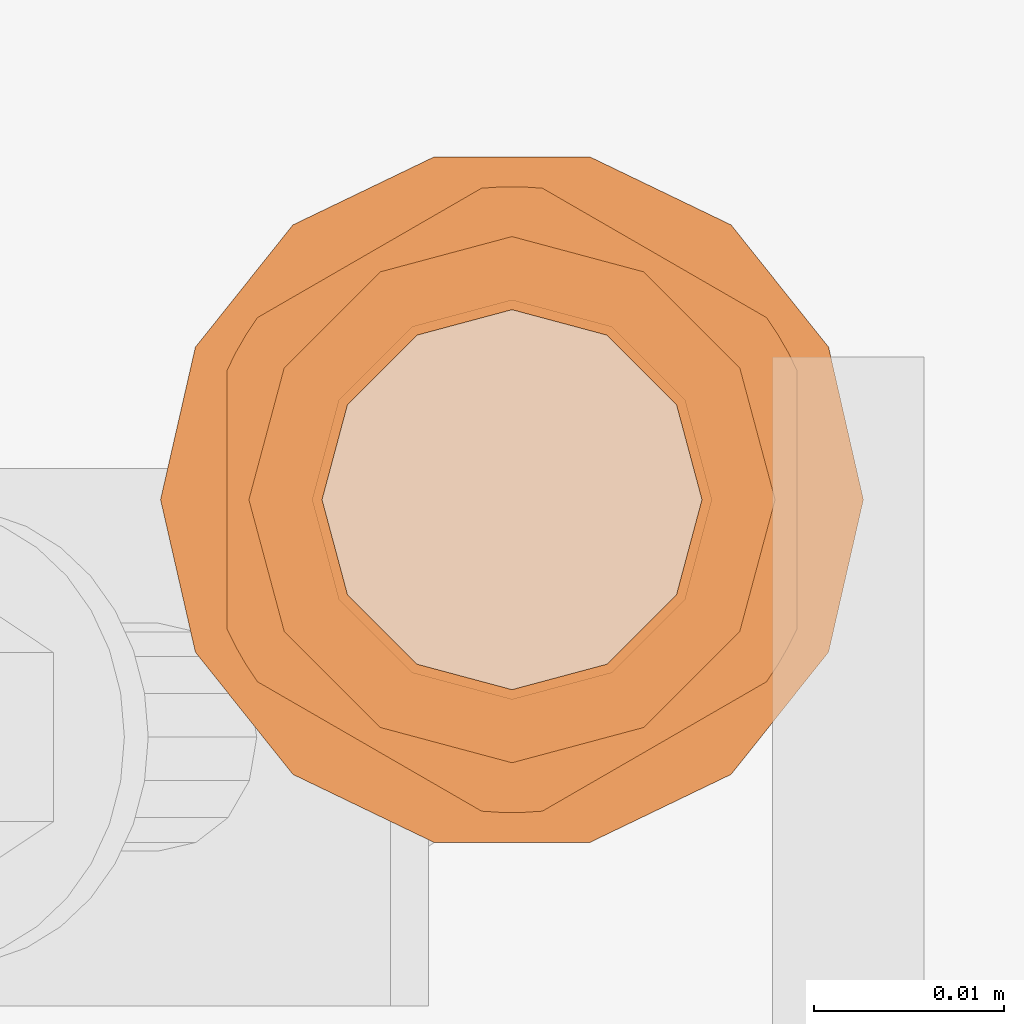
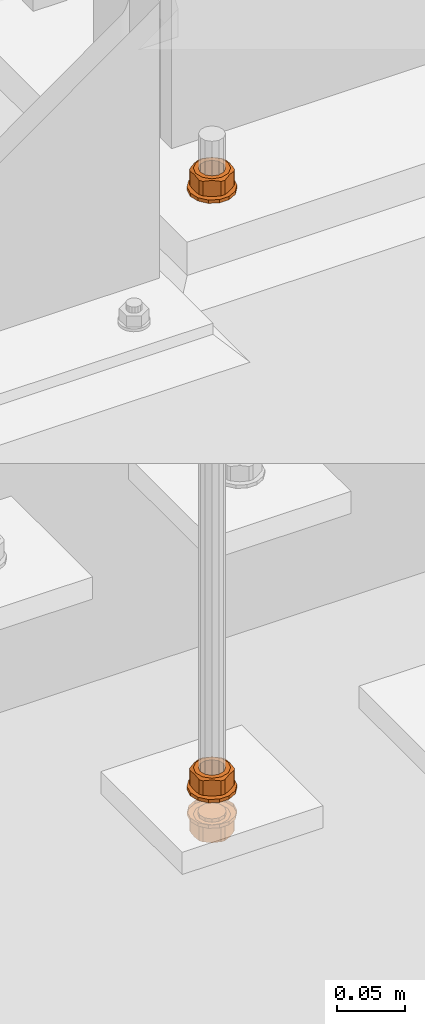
# One storey, part 137 of 145: 6 proxies.
"""IFC2X3 building model written with IfcOpenShell, lengths in millimetres."""

from ifc_helpers import new_model, entity, si_unit, converted_unit, origin_with_axes, place, context, project, spatial, faceted_brep, material, element, save


model = new_model("IFC2X3")

# Units and contexts
model_context = context("Model", 3, precision=1e-09, world=origin_with_axes())
ifc_project = project(units=[si_unit("LENGTHUNIT", "METRE", prefix="MILLI"), si_unit("AREAUNIT", "SQUARE_METRE"), si_unit("VOLUMEUNIT", "CUBIC_METRE"), converted_unit("PLANEANGLEUNIT", "DEGREE", entity("IfcPlaneAngleMeasure", 0.01745329), si_unit("PLANEANGLEUNIT", "RADIAN"), dimensions=[0, 0, 0, 0, 0, 0, 0])], contexts=[model_context])

# Site, building, storey
site_placement = place(None, origin_with_axes())
site = spatial("IfcSite", under=ifc_project, at=site_placement, Name="BZ1 Grund- und Mittelschule 85716 Unterschlei?heim", CompositionType="ELEMENT")
building_placement = place(site_placement, origin_with_axes())
building = spatial("IfcBuilding", under=site, at=building_placement, Name="Struktur 1", CompositionType="ELEMENT")
storey_placement = place(building_placement, origin_with_axes())
storey = spatial("IfcBuildingStorey", under=building, at=storey_placement, Name="Default Storey", CompositionType="ELEMENT", Elevation=0.0)

# Proxies
ifc_material = material(Name="A2")
proxy_1_placement = place(None, origin_with_axes())
element("IfcBuildingElementProxy", 1, at=proxy_1_placement, inside=storey, material=ifc_material, ObjectType="-", context=model_context, shape_type="Brep", body=[
    faceted_brep([(16972.379288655, -1850.538117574, -1247.0), (16964.961364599, -1846.965833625, -1247.0), (16956.728090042, -1846.965833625, -1247.0), (16949.310165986, -1850.538117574, -1247.0), (16944.176803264, -1856.975150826, -1247.0), (16942.344727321, -1865.002, -1247.0), (16944.176803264, -1873.028849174, -1247.0), (16949.310165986, -1879.465882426, -1247.0), (16956.728090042, -1883.038166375, -1247.0), (16964.961364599, -1883.038166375, -1247.0), (16972.379288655, -1879.465882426, -1247.0), (16977.512651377, -1873.028849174, -1247.0), (16979.344727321, -1865.002, -1247.0), (16977.512651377, -1856.975150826, -1247.0), (16960.844727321, -1854.502, -1247.0), (16966.094727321, -1855.90873326, -1247.0), (16969.93799406, -1859.752, -1247.0), (16971.344727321, -1865.002, -1247.0), (16969.93799406, -1870.252, -1247.0), (16966.094727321, -1874.09526674, -1247.0), (16960.844727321, -1875.502, -1247.0), (16955.594727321, -1874.09526674, -1247.0), (16951.751460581, -1870.252, -1247.0), (16950.344727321, -1865.002, -1247.0), (16951.751460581, -1859.752, -1247.0), (16955.594727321, -1855.90873326, -1247.0), (16949.310165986, -1850.538117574, -1250.0), (16956.728090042, -1846.965833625, -1250.0), (16964.961364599, -1846.965833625, -1250.0), (16972.379288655, -1850.538117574, -1250.0), (16977.512651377, -1856.975150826, -1250.0), (16979.344727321, -1865.002, -1250.0), (16977.512651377, -1873.028849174, -1250.0), (16972.379288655, -1879.465882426, -1250.0), (16964.961364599, -1883.038166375, -1250.0), (16956.728090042, -1883.038166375, -1250.0), (16949.310165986, -1879.465882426, -1250.0), (16944.176803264, -1873.028849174, -1250.0), (16942.344727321, -1865.002, -1250.0), (16944.176803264, -1856.975150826, -1250.0), (16960.844727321, -1854.502, -1250.0), (16955.594727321, -1855.90873326, -1250.0), (16951.751460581, -1859.752, -1250.0), (16950.344727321, -1865.002, -1250.0), (16951.751460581, -1870.252, -1250.0), (16955.594727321, -1874.09526674, -1250.0), (16960.844727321, -1875.502, -1250.0), (16966.094727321, -1874.09526674, -1250.0), (16969.93799406, -1870.252, -1250.0), (16971.344727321, -1865.002, -1250.0), (16969.93799406, -1859.752, -1250.0), (16966.094727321, -1855.90873326, -1250.0)], [[[0, 1, 2, 3, 4, 5, 6, 7, 8, 9, 10, 11, 12, 13], [14, 15, 16, 17, 18, 19, 20, 21, 22, 23, 24, 25]], [[26, 3, 2, 27]], [[26, 27, 28, 29, 30, 31, 32, 33, 34, 35, 36, 37, 38, 39], [40, 41, 42, 43, 44, 45, 46, 47, 48, 49, 50, 51]], [[3, 26, 39, 4]], [[41, 25, 24, 42]], [[4, 39, 38, 5]], [[25, 41, 40, 14]], [[27, 2, 1, 28]], [[42, 24, 23, 43]], [[5, 38, 37, 6]], [[14, 40, 51, 15]], [[28, 1, 0, 29]], [[43, 23, 22, 44]], [[6, 37, 36, 7]], [[15, 51, 50, 16]], [[29, 0, 13, 30]], [[44, 22, 21, 45]], [[7, 36, 35, 8]], [[16, 50, 49, 17]], [[12, 31, 30, 13]], [[45, 21, 20, 46]], [[8, 35, 34, 9]], [[31, 12, 11, 32]], [[17, 49, 48, 18]], [[10, 33, 32, 11]], [[9, 34, 33, 10]], [[46, 20, 19, 47]], [[18, 48, 47, 19]]]),
])
proxy_2_placement = place(None, origin_with_axes())
element("IfcBuildingElementProxy", 2, at=proxy_2_placement, inside=storey, material=ifc_material, ObjectType="-", context=model_context, shape_type="Brep", body=[
    faceted_brep([(16975.371914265, -1872.772872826, -1245.484455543), (16974.838094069, -1873.697476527, -1245.484455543), (16972.839179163, -1871.927, -1247.0), (16975.371914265, -1872.772872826, -1232.515544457), (16974.838094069, -1873.697476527, -1232.515544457), (16974.245508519, -1874.585563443, -1245.484455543), (16974.245508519, -1874.585563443, -1232.515544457), (16975.844727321, -1871.815635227, -1245.484455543), (16975.844727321, -1871.815635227, -1232.515544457), (16972.839179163, -1871.927, -1231.0), (16975.844727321, -1865.002, -1246.33604719), (16974.694727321, -1865.002, -1247.0), (16968.344727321, -1877.992381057, -1246.33604719), (16968.344727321, -1877.992381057, -1231.66395281), (16962.443946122, -1881.39919867, -1232.515544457), (16962.443946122, -1881.39919867, -1245.484455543), (16961.378547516, -1881.468349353, -1245.484455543), (16961.378547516, -1881.468349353, -1232.515544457), (16960.310907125, -1881.468349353, -1232.515544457), (16960.310907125, -1881.468349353, -1245.484455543), (16975.844727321, -1858.188364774, -1245.484455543), (16975.844727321, -1858.188364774, -1232.515544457), (16975.844727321, -1865.002, -1231.66395281), (16967.769727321, -1853.007548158, -1247.0), (16972.839179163, -1858.077, -1247.0), (16967.769727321, -1876.996451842, -1247.0), (16960.844727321, -1878.852, -1247.0), (16953.919727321, -1876.996451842, -1247.0), (16948.850275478, -1871.927, -1247.0), (16946.994727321, -1865.002, -1247.0), (16948.850275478, -1858.077, -1247.0), (16953.919727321, -1853.007548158, -1247.0), (16960.844727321, -1851.152, -1247.0), (16970.844727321, -1865.002, -1247.0), (16969.504981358, -1860.002, -1247.0), (16965.844727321, -1856.341745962, -1247.0), (16960.844727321, -1855.002, -1247.0), (16955.844727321, -1856.341745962, -1247.0), (16952.184473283, -1860.002, -1247.0), (16950.844727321, -1865.002, -1247.0), (16952.184473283, -1870.002, -1247.0), (16955.844727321, -1873.662254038, -1247.0), (16960.844727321, -1875.002, -1247.0), (16965.844727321, -1873.662254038, -1247.0), (16969.504981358, -1870.002, -1247.0), (16969.504981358, -1870.002, -1231.0), (16965.844727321, -1873.662254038, -1231.0), (16967.769727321, -1876.996451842, -1231.0), (16960.844727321, -1878.852, -1231.0), (16975.371914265, -1857.231127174, -1245.484455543), (16975.371914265, -1857.231127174, -1232.515544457), (16974.694727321, -1865.002, -1231.0), (16972.839179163, -1858.077, -1231.0), (16967.769727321, -1853.007548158, -1231.0), (16960.844727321, -1851.152, -1231.0), (16953.919727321, -1853.007548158, -1231.0), (16948.850275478, -1858.077, -1231.0), (16946.994727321, -1865.002, -1231.0), (16948.850275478, -1871.927, -1231.0), (16953.919727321, -1876.996451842, -1231.0), (16970.844727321, -1865.002, -1231.0), (16960.844727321, -1875.002, -1231.0), (16955.844727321, -1873.662254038, -1231.0), (16952.184473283, -1870.002, -1231.0), (16950.844727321, -1865.002, -1231.0), (16952.184473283, -1860.002, -1231.0), (16955.844727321, -1856.341745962, -1231.0), (16960.844727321, -1855.002, -1231.0), (16965.844727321, -1856.341745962, -1231.0), (16969.504981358, -1860.002, -1231.0), (16959.245508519, -1881.39919867, -1245.484455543), (16959.245508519, -1881.39919867, -1232.515544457), (16974.838094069, -1856.306523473, -1245.484455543), (16974.838094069, -1856.306523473, -1232.515544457), (16953.344727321, -1877.992381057, -1246.33604719), (16953.344727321, -1877.992381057, -1231.66395281), (16947.443946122, -1874.585563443, -1232.515544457), (16947.443946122, -1874.585563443, -1245.484455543), (16974.245508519, -1855.418436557, -1245.484455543), (16974.245508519, -1855.418436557, -1232.515544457), (16968.344727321, -1852.011618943, -1246.33604719), (16962.443946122, -1848.60480133, -1245.484455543), (16962.443946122, -1848.60480133, -1232.515544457), (16968.344727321, -1852.011618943, -1231.66395281), (16946.851360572, -1873.697476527, -1232.515544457), (16946.851360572, -1873.697476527, -1245.484455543), (16946.317540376, -1872.772872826, -1232.515544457), (16946.317540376, -1872.772872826, -1245.484455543), (16961.378547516, -1848.535650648, -1245.484455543), (16961.378547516, -1848.535650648, -1232.515544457), (16960.310907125, -1848.535650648, -1245.484455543), (16960.310907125, -1848.535650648, -1232.515544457), (16945.844727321, -1871.815635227, -1232.515544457), (16945.844727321, -1871.815635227, -1245.484455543), (16959.245508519, -1848.60480133, -1245.484455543), (16959.245508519, -1848.60480133, -1232.515544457), (16945.844727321, -1865.002, -1246.33604719), (16953.344727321, -1852.011618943, -1246.33604719), (16947.443946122, -1855.418436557, -1245.484455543), (16947.443946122, -1855.418436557, -1232.515544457), (16953.344727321, -1852.011618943, -1231.66395281), (16945.844727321, -1865.002, -1231.66395281), (16945.844727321, -1858.188364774, -1232.515544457), (16945.844727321, -1858.188364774, -1245.484455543), (16946.317540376, -1857.231127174, -1245.484455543), (16946.317540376, -1857.231127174, -1232.515544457), (16946.851360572, -1856.306523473, -1245.484455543), (16946.851360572, -1856.306523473, -1232.515544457)], [[[0, 1, 2]], [[0, 3, 4, 1]], [[5, 2, 1]], [[1, 4, 6, 5]], [[7, 0, 2]], [[3, 0, 7, 8]], [[9, 4, 3]], [[10, 7, 11]], [[7, 2, 11]], [[5, 12, 2]], [[6, 13, 14, 15, 12, 5]], [[9, 6, 4]], [[16, 17, 18, 19]], [[17, 16, 15, 14]], [[10, 20, 21, 22, 8, 7]], [[9, 3, 8]], [[20, 10, 11]], [[23, 24, 11, 2, 25, 26, 27, 28, 29, 30, 31, 32], [33, 34, 35, 36, 37, 38, 39, 40, 41, 42, 43, 44]], [[16, 19, 26]], [[12, 25, 2]], [[45, 44, 43, 46]], [[9, 47, 6]], [[48, 17, 14]], [[49, 50, 21, 20]], [[51, 9, 8]], [[9, 51, 52, 53, 54, 55, 56, 57, 58, 59, 48, 47], [60, 45, 46, 61, 62, 63, 64, 65, 66, 67, 68, 69]], [[44, 45, 60, 33]], [[20, 24, 49]], [[20, 11, 24]], [[70, 26, 19]], [[12, 15, 25]], [[15, 16, 26]], [[48, 14, 13]], [[47, 13, 6]], [[19, 18, 71, 70]], [[48, 18, 17]], [[72, 73, 50, 49]], [[51, 8, 22]], [[72, 49, 24]], [[70, 74, 26]], [[15, 26, 25]], [[46, 43, 42, 61]], [[47, 48, 13]], [[48, 71, 18]], [[71, 75, 76, 77, 74, 70]], [[33, 60, 69, 34]], [[78, 79, 73, 72]], [[52, 50, 73]], [[51, 22, 21]], [[52, 21, 50]], [[78, 72, 24]], [[74, 27, 26]], [[48, 59, 71]], [[80, 81, 82, 83, 79, 78]], [[52, 73, 79]], [[52, 51, 21]], [[78, 24, 23]], [[74, 77, 27]], [[61, 42, 41, 62]], [[59, 75, 71]], [[77, 76, 84, 85]], [[34, 69, 68, 35]], [[52, 79, 83]], [[80, 78, 23]], [[81, 80, 32]], [[77, 28, 27]], [[59, 58, 75]], [[58, 76, 75]], [[77, 85, 28]], [[85, 84, 86, 87]], [[88, 89, 82, 81]], [[53, 52, 83]], [[80, 23, 32]], [[81, 32, 88]], [[62, 41, 40, 63]], [[58, 84, 76]], [[85, 87, 28]], [[35, 68, 67, 36]], [[90, 91, 89, 88]], [[53, 83, 82]], [[54, 82, 89]], [[90, 88, 32]], [[86, 84, 58]], [[87, 86, 92, 93]], [[93, 28, 87]], [[39, 64, 63, 40]], [[91, 90, 94, 95]], [[54, 89, 91]], [[54, 53, 82]], [[94, 90, 32]], [[92, 86, 58]], [[93, 96, 28]], [[64, 39, 38, 65]], [[37, 66, 65, 38]], [[36, 67, 66, 37]], [[54, 91, 95]], [[94, 32, 31]], [[97, 98, 99, 100, 95, 94]], [[96, 29, 28]], [[92, 58, 57]], [[92, 101, 102, 103, 96, 93]], [[54, 95, 100]], [[97, 94, 31]], [[96, 103, 29]], [[101, 92, 57]], [[55, 54, 100]], [[97, 31, 30]], [[103, 30, 29]], [[101, 57, 56]], [[55, 100, 99]], [[98, 97, 30]], [[103, 104, 30]], [[103, 102, 105, 104]], [[102, 101, 56]], [[99, 56, 55]], [[98, 30, 106]], [[99, 98, 106, 107]], [[104, 106, 30]], [[102, 56, 105]], [[99, 107, 56]], [[104, 105, 107, 106]], [[107, 105, 56]]]),
])
proxy_3_placement = place(None, origin_with_axes())
element("IfcBuildingElementProxy", 3, at=proxy_3_placement, inside=storey, material=ifc_material, ObjectType="-", context=model_context, shape_type="Brep", body=[
    faceted_brep([(16974.838094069, -1873.697476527, -1274.515544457), (16975.371914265, -1872.772872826, -1274.515544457), (16972.839179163, -1871.927, -1273.0), (16975.371914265, -1872.772872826, -1287.484455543), (16974.838094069, -1873.697476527, -1287.484455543), (16974.245508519, -1874.585563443, -1274.515544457), (16974.245508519, -1874.585563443, -1287.484455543), (16975.844727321, -1871.815635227, -1274.515544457), (16975.844727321, -1871.815635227, -1287.484455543), (16972.839179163, -1871.927, -1289.0), (16975.844727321, -1865.002, -1273.66395281), (16974.694727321, -1865.002, -1273.0), (16968.344727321, -1877.992381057, -1273.66395281), (16968.344727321, -1877.992381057, -1288.33604719), (16962.443946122, -1881.39919867, -1274.515544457), (16962.443946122, -1881.39919867, -1287.484455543), (16961.378547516, -1881.468349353, -1287.484455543), (16961.378547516, -1881.468349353, -1274.515544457), (16960.310907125, -1881.468349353, -1274.515544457), (16960.310907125, -1881.468349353, -1287.484455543), (16975.844727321, -1858.188364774, -1274.515544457), (16975.844727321, -1865.002, -1288.33604719), (16975.844727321, -1858.188364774, -1287.484455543), (16972.839179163, -1858.077, -1273.0), (16967.769727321, -1853.007548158, -1273.0), (16960.844727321, -1851.152, -1273.0), (16953.919727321, -1853.007548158, -1273.0), (16948.850275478, -1858.077, -1273.0), (16946.994727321, -1865.002, -1273.0), (16948.850275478, -1871.927, -1273.0), (16953.919727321, -1876.996451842, -1273.0), (16960.844727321, -1878.852, -1273.0), (16967.769727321, -1876.996451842, -1273.0), (16970.844727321, -1865.002, -1273.0), (16969.504981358, -1870.002, -1273.0), (16965.844727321, -1873.662254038, -1273.0), (16960.844727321, -1875.002, -1273.0), (16955.844727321, -1873.662254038, -1273.0), (16952.184473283, -1870.002, -1273.0), (16950.844727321, -1865.002, -1273.0), (16952.184473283, -1860.002, -1273.0), (16955.844727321, -1856.341745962, -1273.0), (16960.844727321, -1855.002, -1273.0), (16965.844727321, -1856.341745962, -1273.0), (16969.504981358, -1860.002, -1273.0), (16969.504981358, -1870.002, -1289.0), (16965.844727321, -1873.662254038, -1289.0), (16967.769727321, -1876.996451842, -1289.0), (16960.844727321, -1878.852, -1289.0), (16975.371914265, -1857.231127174, -1287.484455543), (16975.371914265, -1857.231127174, -1274.515544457), (16974.694727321, -1865.002, -1289.0), (16970.844727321, -1865.002, -1289.0), (16969.504981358, -1860.002, -1289.0), (16965.844727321, -1856.341745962, -1289.0), (16960.844727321, -1855.002, -1289.0), (16955.844727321, -1856.341745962, -1289.0), (16952.184473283, -1860.002, -1289.0), (16950.844727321, -1865.002, -1289.0), (16952.184473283, -1870.002, -1289.0), (16955.844727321, -1873.662254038, -1289.0), (16960.844727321, -1875.002, -1289.0), (16959.245508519, -1881.39919867, -1274.515544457), (16959.245508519, -1881.39919867, -1287.484455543), (16974.838094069, -1856.306523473, -1287.484455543), (16974.838094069, -1856.306523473, -1274.515544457), (16953.344727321, -1877.992381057, -1273.66395281), (16953.344727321, -1877.992381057, -1288.33604719), (16947.443946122, -1874.585563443, -1274.515544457), (16947.443946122, -1874.585563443, -1287.484455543), (16974.245508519, -1855.418436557, -1287.484455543), (16974.245508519, -1855.418436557, -1274.515544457), (16972.839179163, -1858.077, -1289.0), (16953.919727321, -1876.996451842, -1289.0), (16962.443946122, -1848.60480133, -1274.515544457), (16968.344727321, -1852.011618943, -1273.66395281), (16968.344727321, -1852.011618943, -1288.33604719), (16962.443946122, -1848.60480133, -1287.484455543), (16946.851360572, -1873.697476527, -1274.515544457), (16946.851360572, -1873.697476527, -1287.484455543), (16948.850275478, -1871.927, -1289.0), (16946.317540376, -1872.772872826, -1274.515544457), (16946.317540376, -1872.772872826, -1287.484455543), (16961.378547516, -1848.535650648, -1287.484455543), (16961.378547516, -1848.535650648, -1274.515544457), (16967.769727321, -1853.007548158, -1289.0), (16960.310907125, -1848.535650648, -1287.484455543), (16960.310907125, -1848.535650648, -1274.515544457), (16960.844727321, -1851.152, -1289.0), (16945.844727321, -1871.815635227, -1274.515544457), (16945.844727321, -1871.815635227, -1287.484455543), (16959.245508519, -1848.60480133, -1287.484455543), (16959.245508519, -1848.60480133, -1274.515544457), (16945.844727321, -1865.002, -1273.66395281), (16947.443946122, -1855.418436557, -1274.515544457), (16953.344727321, -1852.011618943, -1273.66395281), (16953.344727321, -1852.011618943, -1288.33604719), (16947.443946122, -1855.418436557, -1287.484455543), (16946.994727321, -1865.002, -1289.0), (16945.844727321, -1865.002, -1288.33604719), (16945.844727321, -1858.188364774, -1274.515544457), (16945.844727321, -1858.188364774, -1287.484455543), (16953.919727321, -1853.007548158, -1289.0), (16948.850275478, -1858.077, -1289.0), (16946.317540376, -1857.231127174, -1274.515544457), (16946.317540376, -1857.231127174, -1287.484455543), (16946.851360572, -1856.306523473, -1274.515544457), (16946.851360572, -1856.306523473, -1287.484455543)], [[[0, 1, 2]], [[3, 1, 0, 4]], [[2, 5, 0]], [[4, 0, 5, 6]], [[1, 7, 2]], [[1, 3, 8, 7]], [[4, 9, 3]], [[7, 10, 11]], [[2, 7, 11]], [[12, 5, 2]], [[13, 6, 5, 12, 14, 15]], [[6, 9, 4]], [[16, 17, 18, 19]], [[17, 16, 15, 14]], [[20, 10, 7, 8, 21, 22]], [[3, 9, 8]], [[10, 20, 11]], [[23, 24, 25, 26, 27, 28, 29, 30, 31, 32, 2, 11], [33, 34, 35, 36, 37, 38, 39, 40, 41, 42, 43, 44]], [[18, 17, 31]], [[32, 12, 2]], [[34, 45, 46, 35]], [[47, 9, 6]], [[16, 48, 15]], [[49, 50, 20, 22]], [[9, 51, 8]], [[45, 52, 53, 54, 55, 56, 57, 58, 59, 60, 61, 46]], [[45, 34, 33, 52]], [[23, 20, 50]], [[11, 20, 23]], [[31, 62, 18]], [[14, 12, 32]], [[17, 14, 31]], [[15, 48, 13]], [[13, 47, 6]], [[19, 18, 62, 63]], [[19, 48, 16]], [[64, 65, 50, 49]], [[8, 51, 21]], [[50, 65, 23]], [[66, 62, 31]], [[31, 14, 32]], [[35, 46, 61, 36]], [[48, 47, 13]], [[63, 48, 19]], [[67, 63, 62, 66, 68, 69]], [[52, 33, 44, 53]], [[70, 71, 65, 64]], [[49, 72, 64]], [[21, 51, 22]], [[22, 72, 49]], [[65, 71, 23]], [[30, 66, 31]], [[73, 48, 63]], [[74, 75, 71, 70, 76, 77]], [[64, 72, 70]], [[51, 72, 22]], [[23, 71, 24]], [[68, 66, 30]], [[36, 61, 60, 37]], [[67, 73, 63]], [[69, 68, 78, 79]], [[53, 44, 43, 54]], [[70, 72, 76]], [[71, 75, 24]], [[75, 74, 25]], [[29, 68, 30]], [[80, 73, 67]], [[69, 80, 67]], [[78, 68, 29]], [[79, 78, 81, 82]], [[83, 84, 74, 77]], [[72, 85, 76]], [[24, 75, 25]], [[25, 74, 84]], [[37, 60, 59, 38]], [[79, 80, 69]], [[81, 78, 29]], [[54, 43, 42, 55]], [[86, 87, 84, 83]], [[76, 85, 77]], [[77, 88, 83]], [[84, 87, 25]], [[79, 82, 80]], [[82, 81, 89, 90]], [[29, 89, 81]], [[58, 39, 38, 59]], [[87, 86, 91, 92]], [[83, 88, 86]], [[85, 88, 77]], [[87, 92, 25]], [[82, 90, 80]], [[93, 89, 29]], [[39, 58, 57, 40]], [[56, 41, 40, 57]], [[55, 42, 41, 56]], [[86, 88, 91]], [[25, 92, 26]], [[94, 95, 92, 91, 96, 97]], [[28, 93, 29]], [[80, 90, 98]], [[99, 90, 89, 93, 100, 101]], [[91, 88, 96]], [[92, 95, 26]], [[100, 93, 28]], [[90, 99, 98]], [[88, 102, 96]], [[26, 95, 27]], [[27, 100, 28]], [[98, 99, 103]], [[96, 102, 97]], [[95, 94, 27]], [[104, 100, 27]], [[101, 100, 104, 105]], [[99, 101, 103]], [[103, 97, 102]], [[27, 94, 106]], [[94, 97, 107, 106]], [[106, 104, 27]], [[103, 101, 105]], [[107, 97, 103]], [[105, 104, 106, 107]], [[105, 107, 103]]]),
])
proxy_4_placement = place(None, origin_with_axes())
element("IfcBuildingElementProxy", 4, at=proxy_4_placement, inside=storey, material=ifc_material, ObjectType="-", context=model_context, shape_type="Brep", body=[
    faceted_brep([(16964.961364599, -1846.965833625, -1273.0), (16972.379288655, -1850.538117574, -1273.0), (16977.512651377, -1856.975150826, -1273.0), (16979.344727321, -1865.002, -1273.0), (16977.512651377, -1873.028849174, -1273.0), (16972.379288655, -1879.465882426, -1273.0), (16964.961364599, -1883.038166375, -1273.0), (16956.728090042, -1883.038166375, -1273.0), (16949.310165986, -1879.465882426, -1273.0), (16944.176803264, -1873.028849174, -1273.0), (16942.344727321, -1865.002, -1273.0), (16944.176803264, -1856.975150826, -1273.0), (16949.310165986, -1850.538117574, -1273.0), (16956.728090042, -1846.965833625, -1273.0), (16960.844727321, -1854.502, -1273.0), (16955.594727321, -1855.90873326, -1273.0), (16951.751460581, -1859.752, -1273.0), (16950.344727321, -1865.002, -1273.0), (16951.751460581, -1870.252, -1273.0), (16955.594727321, -1874.09526674, -1273.0), (16960.844727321, -1875.502, -1273.0), (16966.094727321, -1874.09526674, -1273.0), (16969.93799406, -1870.252, -1273.0), (16971.344727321, -1865.002, -1273.0), (16969.93799406, -1859.752, -1273.0), (16966.094727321, -1855.90873326, -1273.0), (16949.310165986, -1850.538117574, -1270.0), (16956.728090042, -1846.965833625, -1270.0), (16955.594727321, -1855.90873326, -1270.0), (16960.844727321, -1854.502, -1270.0), (16966.094727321, -1855.90873326, -1270.0), (16969.93799406, -1859.752, -1270.0), (16971.344727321, -1865.002, -1270.0), (16969.93799406, -1870.252, -1270.0), (16966.094727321, -1874.09526674, -1270.0), (16960.844727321, -1875.502, -1270.0), (16955.594727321, -1874.09526674, -1270.0), (16951.751460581, -1870.252, -1270.0), (16950.344727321, -1865.002, -1270.0), (16951.751460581, -1859.752, -1270.0), (16944.176803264, -1856.975150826, -1270.0), (16942.344727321, -1865.002, -1270.0), (16964.961364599, -1846.965833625, -1270.0), (16944.176803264, -1873.028849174, -1270.0), (16972.379288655, -1850.538117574, -1270.0), (16949.310165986, -1879.465882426, -1270.0), (16977.512651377, -1856.975150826, -1270.0), (16956.728090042, -1883.038166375, -1270.0), (16979.344727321, -1865.002, -1270.0), (16964.961364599, -1883.038166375, -1270.0), (16977.512651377, -1873.028849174, -1270.0), (16972.379288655, -1879.465882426, -1270.0)], [[[0, 1, 2, 3, 4, 5, 6, 7, 8, 9, 10, 11, 12, 13], [14, 15, 16, 17, 18, 19, 20, 21, 22, 23, 24, 25]], [[12, 26, 27, 13]], [[28, 29, 30, 31, 32, 33, 34, 35, 36, 37, 38, 39]], [[26, 12, 11, 40]], [[15, 28, 39, 16]], [[40, 11, 10, 41]], [[28, 15, 14, 29]], [[13, 27, 42, 0]], [[16, 39, 38, 17]], [[41, 10, 9, 43]], [[29, 14, 25, 30]], [[0, 42, 44, 1]], [[17, 38, 37, 18]], [[43, 9, 8, 45]], [[30, 25, 24, 31]], [[1, 44, 46, 2]], [[18, 37, 36, 19]], [[45, 8, 7, 47]], [[31, 24, 23, 32]], [[48, 3, 2, 46]], [[19, 36, 35, 20]], [[47, 7, 6, 49]], [[3, 48, 50, 4]], [[32, 23, 22, 33]], [[51, 5, 4, 50]], [[49, 6, 5, 51]], [[20, 35, 34, 21]], [[33, 22, 21, 34]]]),
])
proxy_5_placement = place(None, origin_with_axes())
element("IfcBuildingElementProxy", 5, at=proxy_5_placement, inside=storey, material=ifc_material, ObjectType="-", context=model_context, shape_type="Brep", body=[
    faceted_brep([(16972.379288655, -1850.538117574, -707.0), (16964.961364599, -1846.965833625, -707.0), (16956.728090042, -1846.965833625, -707.0), (16949.310165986, -1850.538117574, -707.0), (16944.176803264, -1856.975150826, -707.0), (16942.344727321, -1865.002, -707.0), (16944.176803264, -1873.028849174, -707.0), (16949.310165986, -1879.465882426, -707.0), (16956.728090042, -1883.038166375, -707.0), (16964.961364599, -1883.038166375, -707.0), (16972.379288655, -1879.465882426, -707.0), (16977.512651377, -1873.028849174, -707.0), (16979.344727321, -1865.002, -707.0), (16977.512651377, -1856.975150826, -707.0), (16960.844727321, -1854.502, -707.0), (16966.094727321, -1855.90873326, -707.0), (16969.93799406, -1859.752, -707.0), (16971.344727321, -1865.002, -707.0), (16969.93799406, -1870.252, -707.0), (16966.094727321, -1874.09526674, -707.0), (16960.844727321, -1875.502, -707.0), (16955.594727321, -1874.09526674, -707.0), (16951.751460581, -1870.252, -707.0), (16950.344727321, -1865.002, -707.0), (16951.751460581, -1859.752, -707.0), (16955.594727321, -1855.90873326, -707.0), (16949.310165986, -1850.538117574, -710.0), (16956.728090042, -1846.965833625, -710.0), (16964.961364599, -1846.965833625, -710.0), (16972.379288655, -1850.538117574, -710.0), (16977.512651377, -1856.975150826, -710.0), (16979.344727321, -1865.002, -710.0), (16977.512651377, -1873.028849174, -710.0), (16972.379288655, -1879.465882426, -710.0), (16964.961364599, -1883.038166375, -710.0), (16956.728090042, -1883.038166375, -710.0), (16949.310165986, -1879.465882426, -710.0), (16944.176803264, -1873.028849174, -710.0), (16942.344727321, -1865.002, -710.0), (16944.176803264, -1856.975150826, -710.0), (16960.844727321, -1854.502, -710.0), (16955.594727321, -1855.90873326, -710.0), (16951.751460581, -1859.752, -710.0), (16950.344727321, -1865.002, -710.0), (16951.751460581, -1870.252, -710.0), (16955.594727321, -1874.09526674, -710.0), (16960.844727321, -1875.502, -710.0), (16966.094727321, -1874.09526674, -710.0), (16969.93799406, -1870.252, -710.0), (16971.344727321, -1865.002, -710.0), (16969.93799406, -1859.752, -710.0), (16966.094727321, -1855.90873326, -710.0)], [[[0, 1, 2, 3, 4, 5, 6, 7, 8, 9, 10, 11, 12, 13], [14, 15, 16, 17, 18, 19, 20, 21, 22, 23, 24, 25]], [[26, 3, 2, 27]], [[26, 27, 28, 29, 30, 31, 32, 33, 34, 35, 36, 37, 38, 39], [40, 41, 42, 43, 44, 45, 46, 47, 48, 49, 50, 51]], [[3, 26, 39, 4]], [[41, 25, 24, 42]], [[4, 39, 38, 5]], [[25, 41, 40, 14]], [[27, 2, 1, 28]], [[42, 24, 23, 43]], [[5, 38, 37, 6]], [[14, 40, 51, 15]], [[28, 1, 0, 29]], [[43, 23, 22, 44]], [[6, 37, 36, 7]], [[15, 51, 50, 16]], [[29, 0, 13, 30]], [[44, 22, 21, 45]], [[7, 36, 35, 8]], [[16, 50, 49, 17]], [[12, 31, 30, 13]], [[45, 21, 20, 46]], [[8, 35, 34, 9]], [[31, 12, 11, 32]], [[17, 49, 48, 18]], [[10, 33, 32, 11]], [[9, 34, 33, 10]], [[46, 20, 19, 47]], [[18, 48, 47, 19]]]),
])
proxy_6_placement = place(None, origin_with_axes())
element("IfcBuildingElementProxy", 6, at=proxy_6_placement, inside=storey, material=ifc_material, ObjectType="-", context=model_context, shape_type="Brep", body=[
    faceted_brep([(16975.371914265, -1872.772872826, -705.484455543), (16974.838094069, -1873.697476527, -705.484455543), (16972.839179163, -1871.927, -707.0), (16975.371914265, -1872.772872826, -692.515544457), (16974.838094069, -1873.697476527, -692.515544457), (16974.245508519, -1874.585563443, -705.484455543), (16974.245508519, -1874.585563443, -692.515544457), (16975.844727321, -1871.815635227, -705.484455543), (16975.844727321, -1871.815635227, -692.515544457), (16972.839179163, -1871.927, -691.0), (16975.844727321, -1865.002, -706.33604719), (16974.694727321, -1865.002, -707.0), (16968.344727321, -1877.992381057, -706.33604719), (16968.344727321, -1877.992381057, -691.66395281), (16962.443946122, -1881.39919867, -692.515544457), (16962.443946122, -1881.39919867, -705.484455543), (16961.378547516, -1881.468349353, -705.484455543), (16961.378547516, -1881.468349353, -692.515544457), (16960.310907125, -1881.468349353, -692.515544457), (16960.310907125, -1881.468349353, -705.484455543), (16975.844727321, -1858.188364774, -705.484455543), (16975.844727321, -1858.188364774, -692.515544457), (16975.844727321, -1865.002, -691.66395281), (16967.769727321, -1853.007548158, -707.0), (16972.839179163, -1858.077, -707.0), (16967.769727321, -1876.996451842, -707.0), (16960.844727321, -1878.852, -707.0), (16953.919727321, -1876.996451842, -707.0), (16948.850275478, -1871.927, -707.0), (16946.994727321, -1865.002, -707.0), (16948.850275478, -1858.077, -707.0), (16953.919727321, -1853.007548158, -707.0), (16960.844727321, -1851.152, -707.0), (16970.844727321, -1865.002, -707.0), (16969.504981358, -1860.002, -707.0), (16965.844727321, -1856.341745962, -707.0), (16960.844727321, -1855.002, -707.0), (16955.844727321, -1856.341745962, -707.0), (16952.184473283, -1860.002, -707.0), (16950.844727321, -1865.002, -707.0), (16952.184473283, -1870.002, -707.0), (16955.844727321, -1873.662254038, -707.0), (16960.844727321, -1875.002, -707.0), (16965.844727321, -1873.662254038, -707.0), (16969.504981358, -1870.002, -707.0), (16969.504981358, -1870.002, -691.0), (16965.844727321, -1873.662254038, -691.0), (16967.769727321, -1876.996451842, -691.0), (16960.844727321, -1878.852, -691.0), (16975.371914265, -1857.231127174, -705.484455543), (16975.371914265, -1857.231127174, -692.515544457), (16974.694727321, -1865.002, -691.0), (16972.839179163, -1858.077, -691.0), (16967.769727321, -1853.007548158, -691.0), (16960.844727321, -1851.152, -691.0), (16953.919727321, -1853.007548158, -691.0), (16948.850275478, -1858.077, -691.0), (16946.994727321, -1865.002, -691.0), (16948.850275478, -1871.927, -691.0), (16953.919727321, -1876.996451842, -691.0), (16970.844727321, -1865.002, -691.0), (16960.844727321, -1875.002, -691.0), (16955.844727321, -1873.662254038, -691.0), (16952.184473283, -1870.002, -691.0), (16950.844727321, -1865.002, -691.0), (16952.184473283, -1860.002, -691.0), (16955.844727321, -1856.341745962, -691.0), (16960.844727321, -1855.002, -691.0), (16965.844727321, -1856.341745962, -691.0), (16969.504981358, -1860.002, -691.0), (16959.245508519, -1881.39919867, -705.484455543), (16959.245508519, -1881.39919867, -692.515544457), (16974.838094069, -1856.306523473, -705.484455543), (16974.838094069, -1856.306523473, -692.515544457), (16953.344727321, -1877.992381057, -706.33604719), (16953.344727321, -1877.992381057, -691.66395281), (16947.443946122, -1874.585563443, -692.515544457), (16947.443946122, -1874.585563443, -705.484455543), (16974.245508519, -1855.418436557, -705.484455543), (16974.245508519, -1855.418436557, -692.515544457), (16968.344727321, -1852.011618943, -706.33604719), (16962.443946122, -1848.60480133, -705.484455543), (16962.443946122, -1848.60480133, -692.515544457), (16968.344727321, -1852.011618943, -691.66395281), (16946.851360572, -1873.697476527, -692.515544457), (16946.851360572, -1873.697476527, -705.484455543), (16946.317540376, -1872.772872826, -692.515544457), (16946.317540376, -1872.772872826, -705.484455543), (16961.378547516, -1848.535650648, -705.484455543), (16961.378547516, -1848.535650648, -692.515544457), (16960.310907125, -1848.535650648, -705.484455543), (16960.310907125, -1848.535650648, -692.515544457), (16945.844727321, -1871.815635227, -692.515544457), (16945.844727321, -1871.815635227, -705.484455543), (16959.245508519, -1848.60480133, -705.484455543), (16959.245508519, -1848.60480133, -692.515544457), (16945.844727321, -1865.002, -706.33604719), (16953.344727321, -1852.011618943, -706.33604719), (16947.443946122, -1855.418436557, -705.484455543), (16947.443946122, -1855.418436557, -692.515544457), (16953.344727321, -1852.011618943, -691.66395281), (16945.844727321, -1865.002, -691.66395281), (16945.844727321, -1858.188364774, -692.515544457), (16945.844727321, -1858.188364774, -705.484455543), (16946.317540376, -1857.231127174, -705.484455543), (16946.317540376, -1857.231127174, -692.515544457), (16946.851360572, -1856.306523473, -705.484455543), (16946.851360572, -1856.306523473, -692.515544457)], [[[0, 1, 2]], [[0, 3, 4, 1]], [[5, 2, 1]], [[1, 4, 6, 5]], [[7, 0, 2]], [[3, 0, 7, 8]], [[9, 4, 3]], [[10, 7, 11]], [[7, 2, 11]], [[5, 12, 2]], [[6, 13, 14, 15, 12, 5]], [[9, 6, 4]], [[16, 17, 18, 19]], [[17, 16, 15, 14]], [[10, 20, 21, 22, 8, 7]], [[9, 3, 8]], [[20, 10, 11]], [[23, 24, 11, 2, 25, 26, 27, 28, 29, 30, 31, 32], [33, 34, 35, 36, 37, 38, 39, 40, 41, 42, 43, 44]], [[16, 19, 26]], [[12, 25, 2]], [[45, 44, 43, 46]], [[9, 47, 6]], [[48, 17, 14]], [[49, 50, 21, 20]], [[51, 9, 8]], [[9, 51, 52, 53, 54, 55, 56, 57, 58, 59, 48, 47], [60, 45, 46, 61, 62, 63, 64, 65, 66, 67, 68, 69]], [[44, 45, 60, 33]], [[20, 24, 49]], [[20, 11, 24]], [[70, 26, 19]], [[12, 15, 25]], [[15, 16, 26]], [[48, 14, 13]], [[47, 13, 6]], [[19, 18, 71, 70]], [[48, 18, 17]], [[72, 73, 50, 49]], [[51, 8, 22]], [[72, 49, 24]], [[70, 74, 26]], [[15, 26, 25]], [[46, 43, 42, 61]], [[47, 48, 13]], [[48, 71, 18]], [[71, 75, 76, 77, 74, 70]], [[33, 60, 69, 34]], [[78, 79, 73, 72]], [[52, 50, 73]], [[51, 22, 21]], [[52, 21, 50]], [[78, 72, 24]], [[74, 27, 26]], [[48, 59, 71]], [[80, 81, 82, 83, 79, 78]], [[52, 73, 79]], [[52, 51, 21]], [[78, 24, 23]], [[74, 77, 27]], [[61, 42, 41, 62]], [[59, 75, 71]], [[77, 76, 84, 85]], [[34, 69, 68, 35]], [[52, 79, 83]], [[80, 78, 23]], [[81, 80, 32]], [[77, 28, 27]], [[59, 58, 75]], [[58, 76, 75]], [[77, 85, 28]], [[85, 84, 86, 87]], [[88, 89, 82, 81]], [[53, 52, 83]], [[80, 23, 32]], [[81, 32, 88]], [[62, 41, 40, 63]], [[58, 84, 76]], [[85, 87, 28]], [[35, 68, 67, 36]], [[90, 91, 89, 88]], [[53, 83, 82]], [[54, 82, 89]], [[90, 88, 32]], [[86, 84, 58]], [[87, 86, 92, 93]], [[93, 28, 87]], [[39, 64, 63, 40]], [[91, 90, 94, 95]], [[54, 89, 91]], [[54, 53, 82]], [[94, 90, 32]], [[92, 86, 58]], [[93, 96, 28]], [[64, 39, 38, 65]], [[37, 66, 65, 38]], [[36, 67, 66, 37]], [[54, 91, 95]], [[94, 32, 31]], [[97, 98, 99, 100, 95, 94]], [[96, 29, 28]], [[92, 58, 57]], [[92, 101, 102, 103, 96, 93]], [[54, 95, 100]], [[97, 94, 31]], [[96, 103, 29]], [[101, 92, 57]], [[55, 54, 100]], [[97, 31, 30]], [[103, 30, 29]], [[101, 57, 56]], [[55, 100, 99]], [[98, 97, 30]], [[103, 104, 30]], [[103, 102, 105, 104]], [[102, 101, 56]], [[99, 56, 55]], [[98, 30, 106]], [[99, 98, 106, 107]], [[104, 106, 30]], [[102, 56, 105]], [[99, 107, 56]], [[104, 105, 107, 106]], [[107, 105, 56]]]),
])

save(model, "model.ifc")
